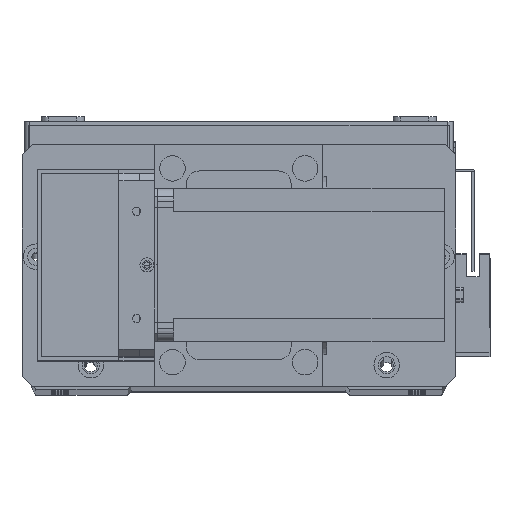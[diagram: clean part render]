
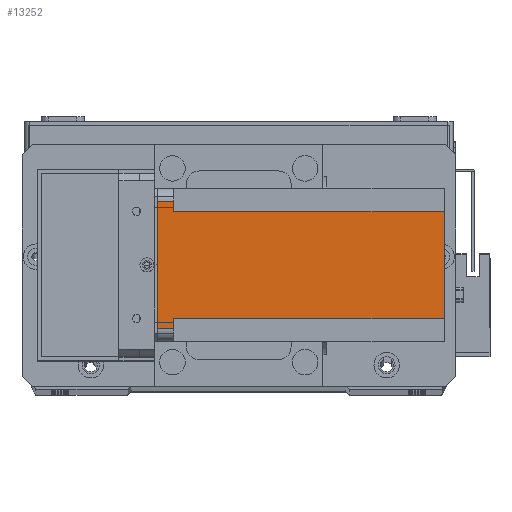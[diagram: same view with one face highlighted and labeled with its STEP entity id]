
A CAD part, top view. The second image highlights one B-rep face of the part: STEP entity #13252.
In plain terms, the highlighted planar face has unit normal (0, 0, 1) as drawn and (-1, 0, 0) by its records, which use the part's own axes.
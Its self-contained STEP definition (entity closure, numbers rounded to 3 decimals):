
#116 = VECTOR ( 'NONE', #23232, 1000. ) ;
#1047 = CARTESIAN_POINT ( 'NONE',  ( 0., 5., -112.5 ) ) ;
#1332 = ORIENTED_EDGE ( 'NONE', *, *, #26988, .F. ) ;
#1662 = LINE ( 'NONE', #10857, #116 ) ;
#1711 = EDGE_LOOP ( 'NONE', ( #21734, #20175, #9879, #11059, #25389, #15165, #10741, #1332 ) ) ;
#1788 = LINE ( 'NONE', #12884, #21583 ) ;
#2600 = CARTESIAN_POINT ( 'NONE',  ( 0., 0., -6.5 ) ) ;
#2762 = CARTESIAN_POINT ( 'NONE',  ( 0., 55., -112.5 ) ) ;
#3409 = VECTOR ( 'NONE', #30711, 1000. ) ;
#4064 = FACE_OUTER_BOUND ( 'NONE', #1711, .T. ) ;
#4277 = EDGE_CURVE ( 'NONE', #18751, #22585, #16610, .T. ) ;
#5104 = DIRECTION ( 'NONE',  ( 0., 0., -1. ) ) ;
#5407 = DIRECTION ( 'NONE',  ( 0., 1., 0. ) ) ;
#6867 = VERTEX_POINT ( 'NONE', #31723 ) ;
#6976 = CARTESIAN_POINT ( 'NONE',  ( 0., 51., -6.5 ) ) ;
#7358 = VECTOR ( 'NONE', #5104, 1000. ) ;
#7660 = VERTEX_POINT ( 'NONE', #17931 ) ;
#8038 = EDGE_CURVE ( 'NONE', #18751, #7660, #23434, .T. ) ;
#8108 = CARTESIAN_POINT ( 'NONE',  ( 0., 0., 0. ) ) ;
#8144 = LINE ( 'NONE', #19984, #7358 ) ;
#9879 = ORIENTED_EDGE ( 'NONE', *, *, #11409, .F. ) ;
#10059 = LINE ( 'NONE', #2762, #22478 ) ;
#10310 = DIRECTION ( 'NONE',  ( 0., -1., 0. ) ) ;
#10741 = ORIENTED_EDGE ( 'NONE', *, *, #12434, .T. ) ;
#10857 = CARTESIAN_POINT ( 'NONE',  ( 0., 51., -112.5 ) ) ;
#11059 = ORIENTED_EDGE ( 'NONE', *, *, #16018, .T. ) ;
#11409 = EDGE_CURVE ( 'NONE', #19684, #22585, #20911, .T. ) ;
#11766 = VERTEX_POINT ( 'NONE', #14449 ) ;
#11882 = VECTOR ( 'NONE', #10310, 1000. ) ;
#12434 = EDGE_CURVE ( 'NONE', #11766, #6867, #25097, .T. ) ;
#12839 = EDGE_CURVE ( 'NONE', #25851, #26795, #1788, .T. ) ;
#12884 = CARTESIAN_POINT ( 'NONE',  ( 0., 60., -6.5 ) ) ;
#13252 = ADVANCED_FACE ( 'NONE', ( #4064 ), #19706, .T. ) ;
#14449 = CARTESIAN_POINT ( 'NONE',  ( 0., 51., -112.5 ) ) ;
#15165 = ORIENTED_EDGE ( 'NONE', *, *, #24532, .F. ) ;
#16018 = EDGE_CURVE ( 'NONE', #19684, #26795, #10059, .T. ) ;
#16610 = LINE ( 'NONE', #1047, #3409 ) ;
#17931 = CARTESIAN_POINT ( 'NONE',  ( 0., 9., -6.5 ) ) ;
#18751 = VERTEX_POINT ( 'NONE', #26504 ) ;
#19289 = AXIS2_PLACEMENT_3D ( 'NONE', #32001, #24565, #22193 ) ;
#19320 = CARTESIAN_POINT ( 'NONE',  ( 0., 5., 0. ) ) ;
#19684 = VERTEX_POINT ( 'NONE', #25515 ) ;
#19706 = PLANE ( 'NONE',  #19289 ) ;
#19948 = DIRECTION ( 'NONE',  ( 0., 1., 0. ) ) ;
#19984 = CARTESIAN_POINT ( 'NONE',  ( 0., 9., -112.5 ) ) ;
#20175 = ORIENTED_EDGE ( 'NONE', *, *, #4277, .T. ) ;
#20911 = LINE ( 'NONE', #8108, #27465 ) ;
#21583 = VECTOR ( 'NONE', #5407, 1000. ) ;
#21734 = ORIENTED_EDGE ( 'NONE', *, *, #8038, .F. ) ;
#22193 = DIRECTION ( 'NONE',  ( 0., -1., 0. ) ) ;
#22478 = VECTOR ( 'NONE', #30068, 1000. ) ;
#22585 = VERTEX_POINT ( 'NONE', #19320 ) ;
#22673 = VECTOR ( 'NONE', #19948, 1000. ) ;
#22951 = DIRECTION ( 'NONE',  ( 0., -1., 0. ) ) ;
#23232 = DIRECTION ( 'NONE',  ( 0., 0., 1. ) ) ;
#23434 = LINE ( 'NONE', #2600, #22673 ) ;
#24532 = EDGE_CURVE ( 'NONE', #11766, #25851, #1662, .T. ) ;
#24565 = DIRECTION ( 'NONE',  ( -1., 0., 0. ) ) ;
#25047 = CARTESIAN_POINT ( 'NONE',  ( 0., 0., -112.5 ) ) ;
#25097 = LINE ( 'NONE', #25047, #11882 ) ;
#25389 = ORIENTED_EDGE ( 'NONE', *, *, #12839, .F. ) ;
#25515 = CARTESIAN_POINT ( 'NONE',  ( 0., 55., 0. ) ) ;
#25851 = VERTEX_POINT ( 'NONE', #6976 ) ;
#26504 = CARTESIAN_POINT ( 'NONE',  ( 0., 5., -6.5 ) ) ;
#26795 = VERTEX_POINT ( 'NONE', #29173 ) ;
#26988 = EDGE_CURVE ( 'NONE', #7660, #6867, #8144, .T. ) ;
#27465 = VECTOR ( 'NONE', #22951, 1000. ) ;
#29173 = CARTESIAN_POINT ( 'NONE',  ( 0., 55., -6.5 ) ) ;
#30068 = DIRECTION ( 'NONE',  ( 0., 0., -1. ) ) ;
#30711 = DIRECTION ( 'NONE',  ( 0., 0., 1. ) ) ;
#31723 = CARTESIAN_POINT ( 'NONE',  ( 0., 9., -112.5 ) ) ;
#32001 = CARTESIAN_POINT ( 'NONE',  ( 0., 0., -112.5 ) ) ;
